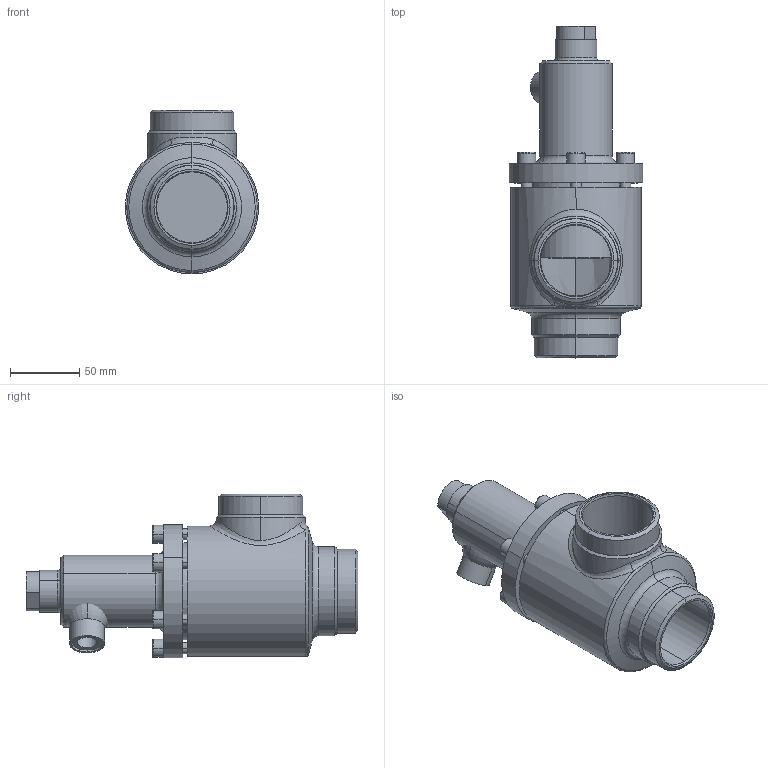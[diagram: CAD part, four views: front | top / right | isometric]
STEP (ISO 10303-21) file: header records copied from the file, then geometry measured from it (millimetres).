
FILE_DESCRIPTION (( 'STEP AP214' ), '1' );
FILE_NAME ('RVD4280xC15-DN50_6-9bar.STEP', '2007-01-10T14:58:21', ( 'Herr Grams' ), ( 'AWP GmbH' ), 'SwSTEP 2.0', 'SolidWorks 2002296', '' );
FILE_SCHEMA (( 'AUTOMOTIVE_DESIGN' ));
Length unit declared in the file: millimetre
Products named in the file (9): RVD4280xC15-DN50_6-9bar; RVD42707E15_Deck+Schr-DN40-50_6-9bar_Standard; Deck-kpl42700E15-DN40-50_6-9bar_Standard; Schw-Rd25_DN40-50_Standard; Gew-Muffe441_M16x1,5_Standard; Deckel42707E15-DN40-50_6-9bar_PS40_Standard; Zylinderschraube-DIN912_M 8x 25; Gehäuse16400-DN050_Standard; Verschlußschr4270xE15-DN40-50_1-9bar_M12x  73_8 bar
Assembly tree (13 placements, depth 4):
  RVD4280xC15-DN50_6-9bar
    RVD42707E15_Deck+Schr-DN40-50_6-9bar_Standard
      Zylinderschraube-DIN912_M 8x 25  x6
      Deck-kpl42700E15-DN40-50_6-9bar_Standard
        Schw-Rd25_DN40-50_Standard
        Deckel42707E15-DN40-50_6-9bar_PS40_Standard
        Gew-Muffe441_M16x1,5_Standard
    Gehäuse16400-DN050_Standard
    Verschlußschr4270xE15-DN40-50_1-9bar_M12x  73_8 bar
Bounding box: 96 x 239 x 118 mm (x, y, z)
Volume: 533096.4 mm3; surface area: 159019 mm2
Topology: 11 solids, 11 shells, 242 faces, 521 edges, 325 vertices
Faces by surface type: cylinder 89, plane 86, cone 43, torus 22, bspline 2
Entity records: 14555 total; most frequent: CARTESIAN_POINT 10586, DIRECTION 824, ORIENTED_EDGE 658, AXIS2_PLACEMENT_3D 350, EDGE_CURVE 329, VERTEX_POINT 205, EDGE_LOOP 190, CIRCLE 182
